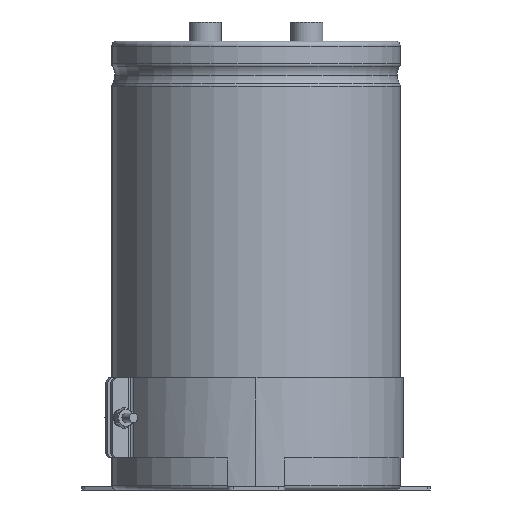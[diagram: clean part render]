
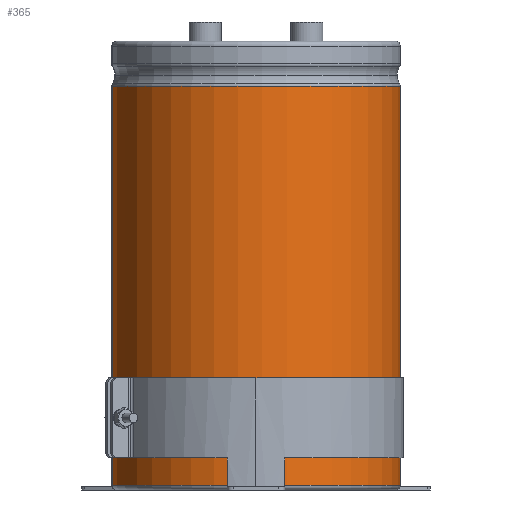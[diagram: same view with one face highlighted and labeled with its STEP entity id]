
A CAD part, left-side view. The second image highlights one B-rep face of the part: STEP entity #365.
In plain terms, the highlighted cylindrical face has radius 45 mm (diameter 90 mm), a partial arc.
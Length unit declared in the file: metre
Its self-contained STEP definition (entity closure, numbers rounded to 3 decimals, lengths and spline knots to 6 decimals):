
#365=ADVANCED_FACE('0:237',(#597),#598,.T.);
#597=FACE_OUTER_BOUND('',#1082,.T.);
#598=CYLINDRICAL_SURFACE('',#1083,0.045);
#1082=EDGE_LOOP('',(#2038,#2039,#2040,#2041));
#1083=AXIS2_PLACEMENT_3D('',#2042,#2043,#2044);
#2038=ORIENTED_EDGE('',*,*,#2995,.T.);
#2039=ORIENTED_EDGE('',*,*,#3004,.T.);
#2040=ORIENTED_EDGE('',*,*,#3006,.T.);
#2041=ORIENTED_EDGE('',*,*,#3007,.F.);
#2042=CARTESIAN_POINT('',(0.0,0.0,0.0));
#2043=DIRECTION('',(-0.0,0.0,1.0));
#2044=DIRECTION('',(0.0,1.0,0.0));
#2995=EDGE_CURVE('',#5626,#5634,#5635,.T.);
#3004=EDGE_CURVE('0:309',#5634,#5645,#5647,.T.);
#3006=EDGE_CURVE('0:312',#5645,#5649,#5650,.T.);
#3007=EDGE_CURVE('0:315',#5626,#5649,#5651,.T.);
#5626=VERTEX_POINT('',#6662);
#5634=VERTEX_POINT('',#6670);
#5635=LINE('',#6671,#6672);
#5645=VERTEX_POINT('',#6683);
#5647=CIRCLE('',#6685,0.045);
#5649=VERTEX_POINT('',#6687);
#5650=LINE('',#6688,#6689);
#5651=CIRCLE('',#6690,0.045);
#6662=CARTESIAN_POINT('',(0.,-0.045,0.0015));
#6670=CARTESIAN_POINT('',(0.,-0.045,0.1259));
#6671=CARTESIAN_POINT('',(0.,-0.045,0.0637));
#6672=VECTOR('',#8209,1.0);
#6683=CARTESIAN_POINT('',(-0.004,0.044822,0.1259));
#6685=AXIS2_PLACEMENT_3D('',#8226,#8227,#8228);
#6687=CARTESIAN_POINT('',(-0.004,0.044822,0.0015));
#6688=CARTESIAN_POINT('',(-0.004,0.044822,0.1259));
#6689=VECTOR('',#8229,0.001);
#6690=AXIS2_PLACEMENT_3D('',#8230,#8231,#8232);
#8209=DIRECTION('',(0.0,0.0,1.0));
#8226=CARTESIAN_POINT('',(0.0,0.0,0.1259));
#8227=DIRECTION('',(0.0,0.0,-1.0));
#8228=DIRECTION('',(0.0,1.0,0.0));
#8229=DIRECTION('',(0.0,0.0,-1.0));
#8230=CARTESIAN_POINT('',(0.0,0.0,0.0015));
#8231=DIRECTION('',(0.0,0.0,-1.0));
#8232=DIRECTION('',(0.0,1.0,0.0));
